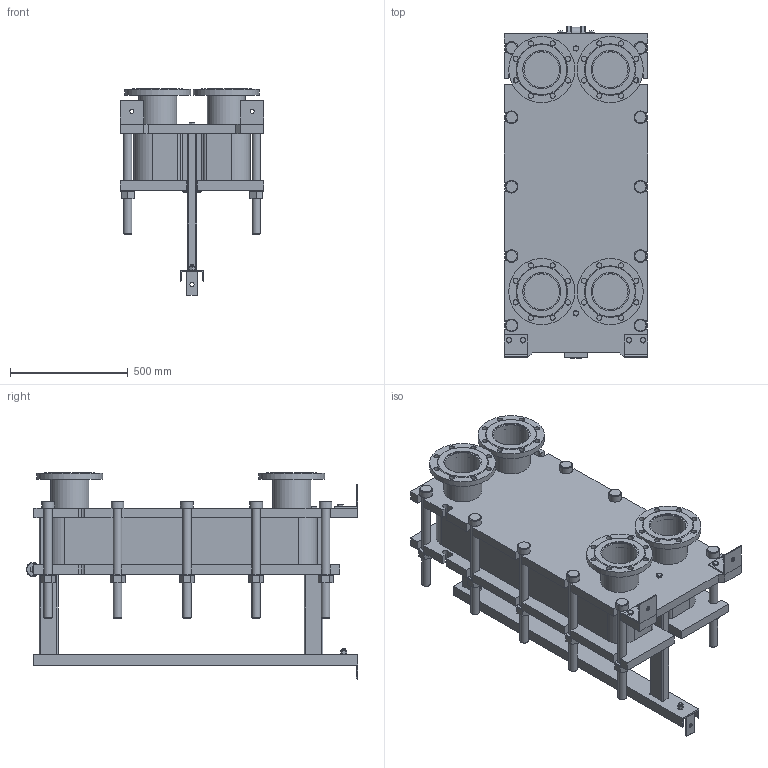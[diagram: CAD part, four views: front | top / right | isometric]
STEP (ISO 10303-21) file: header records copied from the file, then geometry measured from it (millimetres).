
FILE_DESCRIPTION(/* description */ (''),/* implementation_level */ '2;1');
FILE_NAME(/* name */ 'C:\Users\zhuro\Desktop\ENCO\TO\ЭН-041\ЭН-0,5-041-58-1.stp',/* time_stamp */ '2022-06-06T10:53:51+03:00',/* author */ ('zhuro'),/* organization */ (''),/* preprocessor_version */ 'ST-DEVELOPER v18.1',/* originating_system */ 'Autodesk Inventor 2022',/* authorisation */ '');
FILE_SCHEMA (('AUTOMOTIVE_DESIGN { 1 0 10303 214 3 1 1 }'));
Length unit declared in the file: millimetre
Products named in the file (1): ЭН-0,5-041-58-1
Bounding box: 610 x 1406.5 x 875 mm (x, y, z)
Volume: 190065403.9 mm3; surface area: 8098445.6 mm2
Topology: 52 solids, 52 shells, 711 faces, 1696 edges, 1094 vertices
Faces by surface type: plane 487, cylinder 177, cone 41, torus 6
Full cylindrical faces by diameter (mm): 8 x4, 10 x2, 16 x8, 18 x3, 22 x32, 36 x24, 50 x1, 54 x10, 60 x12, 151 x4, 161 x8, 280 x4
Entity records: 22667 total; most frequent: CARTESIAN_POINT 5230, DIRECTION 3644, ORIENTED_EDGE 3392, EDGE_CURVE 1696, AXIS2_PLACEMENT_3D 1272, LINE 1100, VECTOR 1100, VERTEX_POINT 1094
